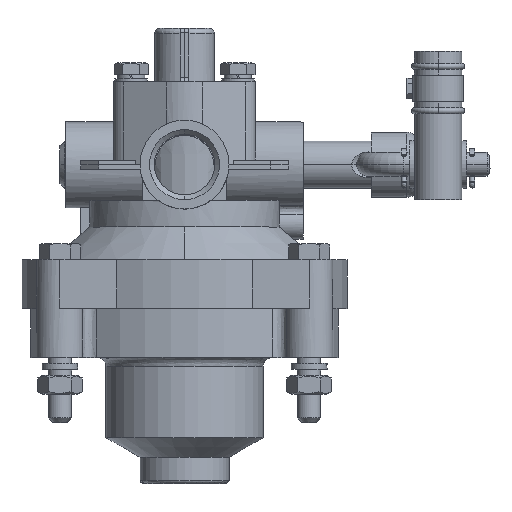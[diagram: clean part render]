
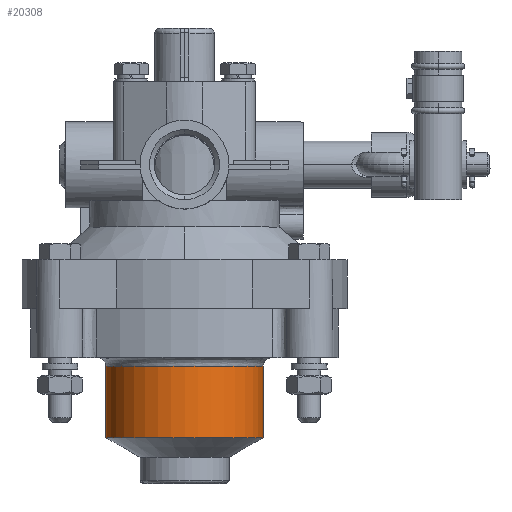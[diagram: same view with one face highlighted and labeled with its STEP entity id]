
A CAD part, top view. The second image highlights one B-rep face of the part: STEP entity #20308.
In plain terms, the highlighted cylindrical face has radius 26.5 mm (diameter 53 mm), a partial arc.
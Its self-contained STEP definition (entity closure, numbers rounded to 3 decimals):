
#5745=CARTESIAN_POINT('',(0.,-23.,0.));
#5746=DIRECTION('',(0.,1.,0.));
#5747=DIRECTION('',(-1.,0.,0.));
#5748=AXIS2_PLACEMENT_3D('',#5745,#5746,#5747);
#5750=DIRECTION('',(0.,-1.,0.));
#5751=VECTOR('',#5750,24.);
#5752=CARTESIAN_POINT('',(26.5,-23.,
0.));
#5753=LINE('',#5752,#5751);
#5754=DIRECTION('',(0.,1.,0.));
#5755=VECTOR('',#5754,24.);
#5756=CARTESIAN_POINT('',(-26.5,-47.,
0.));
#5757=LINE('',#5756,#5755);
#5763=CARTESIAN_POINT('',(0.,-47.,
0.));
#5764=DIRECTION('',(0.,1.,0.));
#5765=DIRECTION('',(-1.,0.,0.));
#5766=AXIS2_PLACEMENT_3D('',#5763,#5764,#5765);
#11223=CARTESIAN_POINT('',(26.5,-23.,
0.));
#11224=CARTESIAN_POINT('',(-26.5,-23.,
0.));
#11225=VERTEX_POINT('',#11223);
#11226=VERTEX_POINT('',#11224);
#11227=CARTESIAN_POINT('',(26.5,-47.,
0.));
#11228=VERTEX_POINT('',#11227);
#11229=CARTESIAN_POINT('',(-26.5,-47.,
0.));
#11230=VERTEX_POINT('',#11229);
#20296=CARTESIAN_POINT('',(0.,-35.,0.));
#20297=DIRECTION('',(0.,-1.,0.));
#20298=DIRECTION('',(0.998,0.,-0.063));
#20299=AXIS2_PLACEMENT_3D('',#20296,#20297,#20298);
#20300=CYLINDRICAL_SURFACE('',#20299,26.5);
#20301=ORIENTED_EDGE('',*,*,#20243,.T.);
#20302=ORIENTED_EDGE('',*,*,#20286,.T.);
#20304=ORIENTED_EDGE('',*,*,#20303,.F.);
#20305=ORIENTED_EDGE('',*,*,#20274,.T.);
#20306=EDGE_LOOP('',(#20301,#20302,#20304,#20305));
#20307=FACE_OUTER_BOUND('',#20306,.F.);
#20308=ADVANCED_FACE('',(#20307),#20300,.T.);
#5749=CIRCLE('',#5748,26.5);
#5767=CIRCLE('',#5766,26.5);
#20243=EDGE_CURVE('',#11226,#11225,#5749,.T.);
#20274=EDGE_CURVE('',#11230,#11226,#5757,.T.);
#20286=EDGE_CURVE('',#11225,#11228,#5753,.T.);
#20303=EDGE_CURVE('',#11230,#11228,#5767,.T.);
